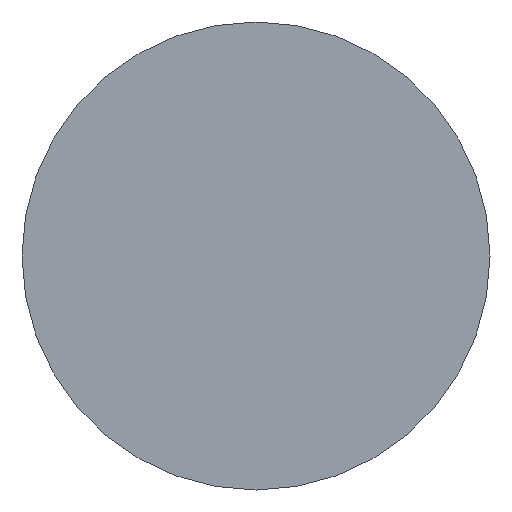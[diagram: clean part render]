
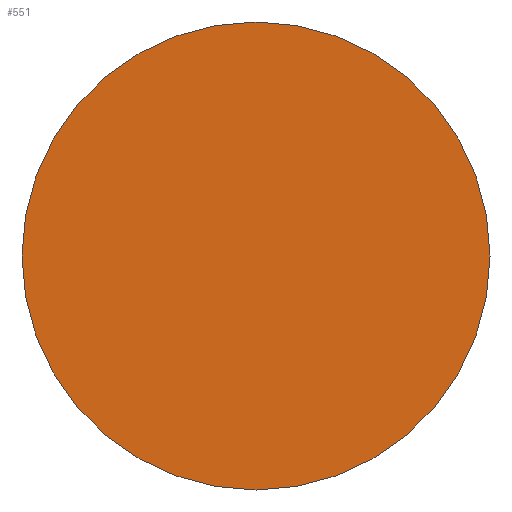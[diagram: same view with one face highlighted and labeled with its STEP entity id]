
A CAD part, left-side view. The second image highlights one B-rep face of the part: STEP entity #551.
In plain terms, the highlighted planar face has unit normal (-1, 0, 0).
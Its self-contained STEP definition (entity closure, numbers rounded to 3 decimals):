
#504=CARTESIAN_POINT('',(-389.034,-426.513,443.372));
#505=VERTEX_POINT('',#504);
#512=CARTESIAN_POINT('',(-389.034,-549.513,443.372));
#513=VERTEX_POINT('',#512);
#514=CARTESIAN_POINT('',(-389.034,-488.013,443.372));
#515=DIRECTION('',(-1.0,0.0,0.0));
#516=DIRECTION('',(0.0,1.0,0.0));
#517=AXIS2_PLACEMENT_3D('',#514,#515,#516);
#518=CIRCLE('',#517,61.5);
#519=EDGE_CURVE('',#513,#505,#518,.T.);
#521=CARTESIAN_POINT('',(-389.034,-488.013,443.372));
#522=DIRECTION('',(-1.0,0.0,0.0));
#523=DIRECTION('',(0.0,1.0,0.0));
#524=AXIS2_PLACEMENT_3D('',#521,#522,#523);
#525=CIRCLE('',#524,61.5);
#526=EDGE_CURVE('',#505,#513,#525,.T.);
#542=CARTESIAN_POINT('',(-389.034,-561.813,517.173));
#543=DIRECTION('',(-1.0,0.0,0.0));
#544=DIRECTION('',(0.0,1.0,0.0));
#545=AXIS2_PLACEMENT_3D('',#542,#543,#544);
#546=PLANE('',#545);
#547=ORIENTED_EDGE('',*,*,#526,.T.);
#548=ORIENTED_EDGE('',*,*,#519,.T.);
#549=EDGE_LOOP('',(#547,#548));
#550=FACE_OUTER_BOUND('',#549,.T.);
#551=ADVANCED_FACE('',(#550),#546,.T.);
